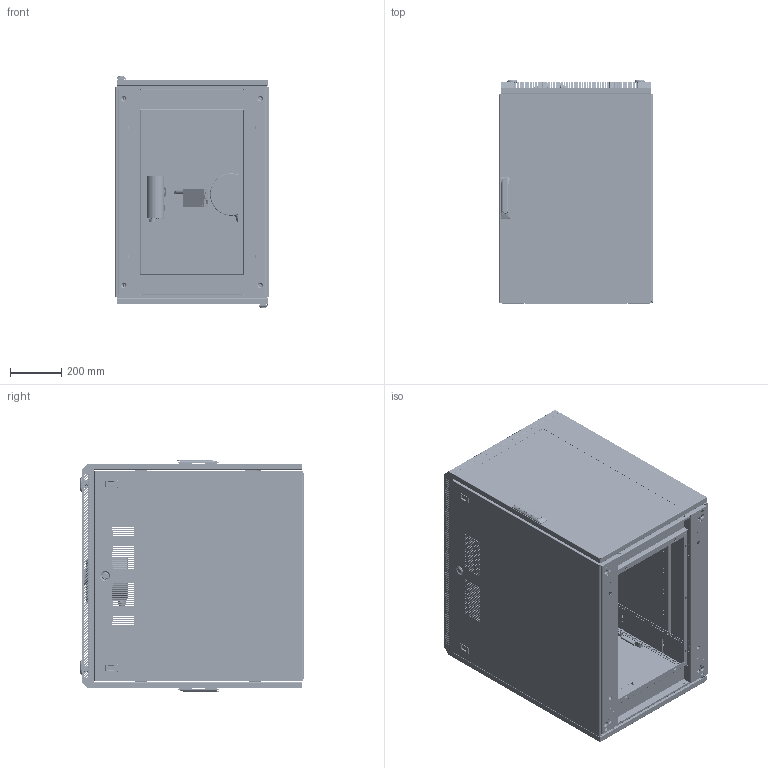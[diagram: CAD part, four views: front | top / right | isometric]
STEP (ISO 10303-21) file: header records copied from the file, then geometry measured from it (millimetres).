
FILE_DESCRIPTION (( 'STEP AP214' ), '1' );
FILE_NAME ('Assieme_17U_Defin.STEP', '2017-09-02T07:49:53', ( '' ), ( '' ), 'SwSTEP 2.0', 'SolidWorks 2014', '' );
FILE_SCHEMA (( 'AUTOMOTIVE_DESIGN' ));
Length unit declared in the file: millimetre
Products named in the file (56): PFLITSCH_bg220_va_mehrfach; VT803-505322; VT803-2213082_lamierato; VT803-500005_MOD_800; Top End Plate {GA1}; 1101400-1100-3-cm; collimatore TUBO_Mod_1; VT803-507630; Round Flange 2 {GA1}; VT803-500593G; VT803-508367_LAMIERATO; VT802-563398; TAPPO FIANCATA; package body flange {GA1}; VT802-560304; Caution Radiation Label {GA1}; VT803-500013; Cono; VT803-501366; Amptek X123; 2500053, PACKAGE BODY {GA1}; VT803-500552; Assieme_17U_Defin; FHS-M6-12; VT803-594922; VT803-501366_lamierato; VT802-2213122; VA54-223203; VA803-2213002; VT803-500170; FA, XTF5016, AG, 5 MIL; SCREW, SHCS, #4-40 X .438 {HW1}; VT803-508367; VT803-500002; split washer #4 {HW1}; VT594-3635467; VT803-339093; VT803-500170_lamierato; Tab, Probe Lead {GA1}; VT804-2212722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
Assembly tree (103 placements, depth 5):
  Assieme_17U_Defin
    Amptek X123
    FA, XTF5016, AG, 5 MIL
      Connector, Box Modified {GA1}_Without Key
      Seal Screw {GA1}
      bottom plate {GA1}
      Top End Plate {GA1}
      Tab, Probe Lead {GA1}
      2500053, PACKAGE BODY {GA1}
      package body flange {GA1}
      Round Flange 2 {GA1}
      split washer #4 {HW1}  x7
      SCREW, SHCS, #4-40 X .438 {HW1}  x7
      Caution Radiation Label {GA1}
      Temperature Indicating Label {GA1}_Stainless Package
    collimatore TUBO_Mod_1
    Cono
    1101400-Zusammenbau leer-1-cm
      1101400-1100-3-cm
      PFLITSCH_bg220_va_mehrfach
      1101400-1110-1-cm
      1101400-1000-2-cm
    VT804-2212722
      VT804-2212722_struttura
        VT803-339093  x4
        VT803-501984_800  x2
          VT803-500002
          VT803-500005_MOD_800
        VT803-501366
          VT803-501366_lamierato
          FHS-M6-12  x2
        VT803-500013  x4
        DISTANZIALE COPERTURA  x4
        1501_60Z_TRAVERSA_800  x4
        VA54-223203  x4
      VT802-2213122
        VT803-2213082
          VT803-2213082_lamierato
          VT803-500593G  x2
          VT594-3635467  x2
          FHS-M6-12  x2
        VA803-2213002
        VT802-563494
      VT803-594922  x4
      VT803-509222  x2
      VT802-563398
        VT803-508367
          VT803-508367_LAMIERATO
          VT803-500552
          FHS-M6-12  x2
          VT803-500593G  x2
        VT802-563494
      VT802-560304  x2
        VT803-500170
          VT803-500170_lamierato
          FHS-M6-12  x2
          VT803-507630
          VT803-507584
          VT803-505322
        MOLLE FIANCATE
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Bounding box: 599.3 x 867.7 x 900.2 mm (x, y, z)
Volume: 9073297.9 mm3; surface area: 12123099.3 mm2
Topology: 112 solids, 134 shells, 15418 faces, 44124 edges, 28781 vertices
Faces by surface type: plane 7955, cylinder 5043, bspline 1526, cone 891, torus 3
Entity records: 427500 total; most frequent: CARTESIAN_POINT 157901, ORIENTED_EDGE 53286, DIRECTION 45805, EDGE_CURVE 26645, VERTEX_POINT 17486, LINE 16027, VECTOR 16027, AXIS2_PLACEMENT_3D 14889
